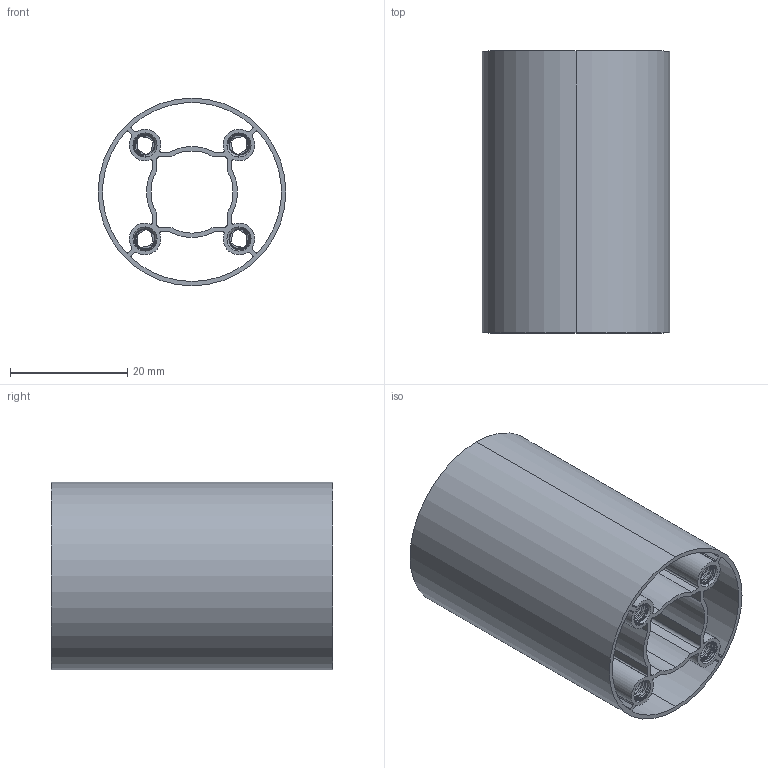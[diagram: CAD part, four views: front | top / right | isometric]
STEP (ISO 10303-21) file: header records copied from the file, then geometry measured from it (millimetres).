
FILE_DESCRIPTION (( 'STEP AP203' ), '1' );
FILE_NAME ('4103-0032-0048.STEP', '2022-09-14T13:44:30', ( '' ), ( '' ), 'SwSTEP 2.0', 'SolidWorks 2016', '' );
FILE_SCHEMA (( 'CONFIG_CONTROL_DESIGN' ));
Length unit declared in the file: millimetre
Products named in the file (1): 4103-0032-0048
Bounding box: 31.95 x 48 x 31.95 mm (x, y, z)
Volume: 7979.1 mm3; surface area: 20007.4 mm2
Topology: 1 solids, 1 shells, 781 faces, 2333 edges, 1554 vertices
Faces by surface type: cylinder 711, plane 34, cone 20, bspline 16
Entity records: 50002 total; most frequent: CARTESIAN_POINT 32717, ORIENTED_EDGE 4666, DIRECTION 2715, EDGE_CURVE 2333, VERTEX_POINT 1554, AXIS2_PLACEMENT_3D 960, EDGE_LOOP 799, LINE 795
